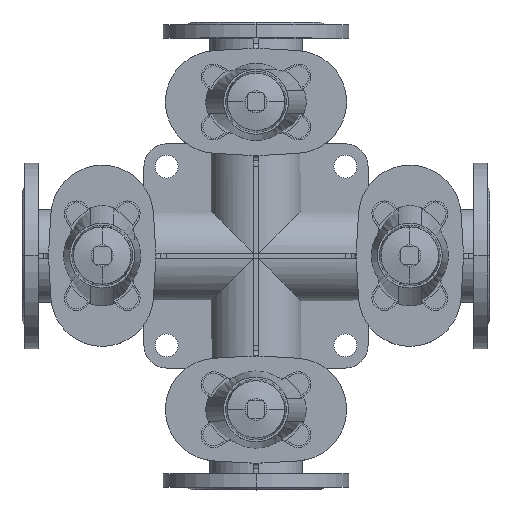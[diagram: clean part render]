
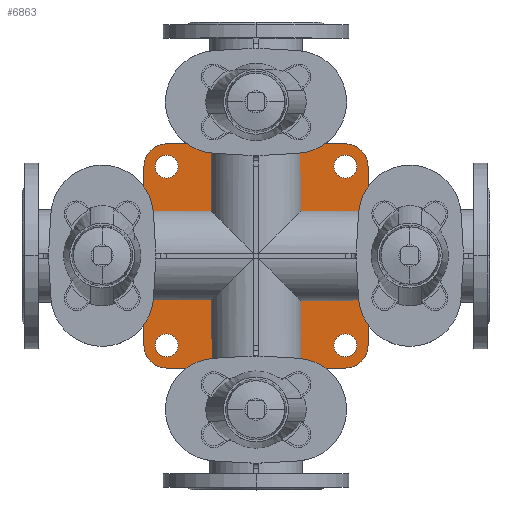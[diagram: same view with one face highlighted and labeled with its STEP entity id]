
A CAD part, top view. The second image highlights one B-rep face of the part: STEP entity #6863.
In plain terms, the highlighted planar face has unit normal (0, 0, 1).
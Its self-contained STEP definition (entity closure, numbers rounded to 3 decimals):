
#6863=ADVANCED_FACE('',(#12855,#12856,#12857,#12858,#12859),#12860,.F.);
#12855=FACE_BOUND('',#20348,.T.);
#12856=FACE_BOUND('',#20349,.T.);
#12857=FACE_BOUND('',#20350,.T.);
#12858=FACE_BOUND('',#20351,.T.);
#12859=FACE_OUTER_BOUND('',#20352,.T.);
#12860=PLANE('',#20353);
#20348=EDGE_LOOP('',(#34181,#34182));
#20349=EDGE_LOOP('',(#34183,#34184));
#20350=EDGE_LOOP('',(#34185,#34186));
#20351=EDGE_LOOP('',(#34187,#34188));
#20352=EDGE_LOOP('',(#34189,#34190,#34191,#34192,#34193,#34194,#34195,#34196));
#20353=AXIS2_PLACEMENT_3D('',#34197,#34198,#34199);
#34181=ORIENTED_EDGE('',*,*,#40093,.T.);
#34182=ORIENTED_EDGE('',*,*,#41068,.T.);
#34183=ORIENTED_EDGE('',*,*,#39984,.T.);
#34184=ORIENTED_EDGE('',*,*,#42291,.T.);
#34185=ORIENTED_EDGE('',*,*,#41514,.T.);
#34186=ORIENTED_EDGE('',*,*,#42292,.T.);
#34187=ORIENTED_EDGE('',*,*,#40841,.T.);
#34188=ORIENTED_EDGE('',*,*,#39247,.T.);
#34189=ORIENTED_EDGE('',*,*,#42293,.F.);
#34190=ORIENTED_EDGE('',*,*,#42294,.F.);
#34191=ORIENTED_EDGE('',*,*,#40184,.F.);
#34192=ORIENTED_EDGE('',*,*,#37147,.F.);
#34193=ORIENTED_EDGE('',*,*,#42295,.F.);
#34194=ORIENTED_EDGE('',*,*,#39201,.F.);
#34195=ORIENTED_EDGE('',*,*,#42013,.F.);
#34196=ORIENTED_EDGE('',*,*,#41854,.F.);
#34197=CARTESIAN_POINT('',(277.5,0.0,15.0));
#34198=DIRECTION('',(0.0,0.0,-1.0));
#34199=DIRECTION('',(-1.0,0.0,0.0));
#37147=EDGE_CURVE('',#43547,#43548,#43549,.T.);
#39201=EDGE_CURVE('',#46939,#46940,#46941,.T.);
#39247=EDGE_CURVE('',#47009,#47006,#47010,.T.);
#39984=EDGE_CURVE('',#48116,#48118,#48120,.T.);
#40093=EDGE_CURVE('',#48265,#48267,#48269,.T.);
#40184=EDGE_CURVE('',#43548,#48400,#48401,.T.);
#40841=EDGE_CURVE('',#47006,#47009,#49281,.T.);
#41068=EDGE_CURVE('',#48267,#48265,#49581,.T.);
#41514=EDGE_CURVE('',#50146,#50148,#50150,.T.);
#41854=EDGE_CURVE('',#50565,#50566,#50567,.T.);
#42013=EDGE_CURVE('',#50566,#46939,#50746,.T.);
#42291=EDGE_CURVE('',#48118,#48116,#51049,.T.);
#42292=EDGE_CURVE('',#50148,#50146,#51050,.T.);
#42293=EDGE_CURVE('',#51051,#50565,#51052,.T.);
#42294=EDGE_CURVE('',#48400,#51051,#51053,.T.);
#42295=EDGE_CURVE('',#46940,#43547,#51054,.T.);
#43547=VERTEX_POINT('',#52550);
#43548=VERTEX_POINT('',#52551);
#43549=CIRCLE('',#52552,27.0);
#46939=VERTEX_POINT('',#56921);
#46940=VERTEX_POINT('',#56922);
#46941=CIRCLE('',#56923,27.0);
#47006=VERTEX_POINT('',#57009);
#47009=VERTEX_POINT('',#57013);
#47010=CIRCLE('',#57014,13.5);
#48116=VERTEX_POINT('',#58485);
#48118=VERTEX_POINT('',#58488);
#48120=CIRCLE('',#58491,13.5);
#48265=VERTEX_POINT('',#58684);
#48267=VERTEX_POINT('',#58687);
#48269=CIRCLE('',#58690,13.5);
#48400=VERTEX_POINT('',#58866);
#48401=LINE('',#58867,#58868);
#49281=CIRCLE('',#60026,13.5);
#49581=CIRCLE('',#60402,13.5);
#50146=VERTEX_POINT('',#61148);
#50148=VERTEX_POINT('',#61151);
#50150=CIRCLE('',#61154,13.5);
#50565=VERTEX_POINT('',#61696);
#50566=VERTEX_POINT('',#61697);
#50567=CIRCLE('',#61698,27.0);
#50746=LINE('',#61929,#61930);
#51049=CIRCLE('',#62309,13.5);
#51050=CIRCLE('',#62310,13.5);
#51051=VERTEX_POINT('',#62311);
#51052=LINE('',#62312,#62313);
#51053=CIRCLE('',#62314,27.0);
#51054=LINE('',#62315,#62316);
#52550=CARTESIAN_POINT('',(383.5,133.0,15.0));
#52551=CARTESIAN_POINT('',(410.5,106.0,15.0));
#52552=AXIS2_PLACEMENT_3D('',#63466,#63467,#63468);
#56921=CARTESIAN_POINT('',(144.5,106.0,15.0));
#56922=CARTESIAN_POINT('',(171.5,133.0,15.0));
#56923=AXIS2_PLACEMENT_3D('',#66341,#66342,#66343);
#57009=CARTESIAN_POINT('',(397.0,106.0,15.0));
#57013=CARTESIAN_POINT('',(370.0,106.0,15.0));
#57014=AXIS2_PLACEMENT_3D('',#66399,#66400,#66401);
#58485=CARTESIAN_POINT('',(185.0,-106.0,15.0));
#58488=CARTESIAN_POINT('',(158.0,-106.0,15.0));
#58491=AXIS2_PLACEMENT_3D('',#67312,#67313,#67314);
#58684=CARTESIAN_POINT('',(397.0,-106.0,15.0));
#58687=CARTESIAN_POINT('',(370.0,-106.0,15.0));
#58690=AXIS2_PLACEMENT_3D('',#67440,#67441,#67442);
#58866=CARTESIAN_POINT('',(410.5,-106.0,15.0));
#58867=CARTESIAN_POINT('',(410.5,106.0,15.0));
#58868=VECTOR('',#67542,1.0);
#60026=AXIS2_PLACEMENT_3D('',#68298,#68299,#68300);
#60402=AXIS2_PLACEMENT_3D('',#68584,#68585,#68586);
#61148=CARTESIAN_POINT('',(185.0,106.0,15.0));
#61151=CARTESIAN_POINT('',(158.0,106.0,15.0));
#61154=AXIS2_PLACEMENT_3D('',#69085,#69086,#69087);
#61696=CARTESIAN_POINT('',(171.5,-133.0,15.0));
#61697=CARTESIAN_POINT('',(144.5,-106.0,15.0));
#61698=AXIS2_PLACEMENT_3D('',#69458,#69459,#69460);
#61929=CARTESIAN_POINT('',(144.5,-106.0,15.0));
#61930=VECTOR('',#69597,1.0);
#62309=AXIS2_PLACEMENT_3D('',#69803,#69804,#69805);
#62310=AXIS2_PLACEMENT_3D('',#69806,#69807,#69808);
#62311=CARTESIAN_POINT('',(383.5,-133.0,15.0));
#62312=CARTESIAN_POINT('',(383.5,-133.0,15.0));
#62313=VECTOR('',#69809,1.0);
#62314=AXIS2_PLACEMENT_3D('',#69810,#69811,#69812);
#62315=CARTESIAN_POINT('',(171.5,133.0,15.0));
#62316=VECTOR('',#69813,1.0);
#63466=CARTESIAN_POINT('',(383.5,106.0,15.0));
#63467=DIRECTION('',(0.0,0.0,-1.0));
#63468=DIRECTION('',(-1.0,0.0,0.0));
#66341=CARTESIAN_POINT('',(171.5,106.0,15.0));
#66342=DIRECTION('',(0.0,0.0,-1.0));
#66343=DIRECTION('',(-1.0,0.0,0.0));
#66399=CARTESIAN_POINT('',(383.5,106.0,15.0));
#66400=DIRECTION('',(0.0,0.0,-1.0));
#66401=DIRECTION('',(1.0,0.0,0.0));
#67312=CARTESIAN_POINT('',(171.5,-106.0,15.0));
#67313=DIRECTION('',(0.0,0.0,-1.0));
#67314=DIRECTION('',(1.0,0.0,0.0));
#67440=CARTESIAN_POINT('',(383.5,-106.0,15.0));
#67441=DIRECTION('',(0.0,0.0,-1.0));
#67442=DIRECTION('',(1.0,0.0,0.0));
#67542=DIRECTION('',(0.0,-1.0,0.0));
#68298=CARTESIAN_POINT('',(383.5,106.0,15.0));
#68299=DIRECTION('',(0.0,0.0,-1.0));
#68300=DIRECTION('',(1.0,0.0,0.0));
#68584=CARTESIAN_POINT('',(383.5,-106.0,15.0));
#68585=DIRECTION('',(0.0,0.0,-1.0));
#68586=DIRECTION('',(1.0,0.0,0.0));
#69085=CARTESIAN_POINT('',(171.5,106.0,15.0));
#69086=DIRECTION('',(0.0,0.0,-1.0));
#69087=DIRECTION('',(1.0,0.0,0.0));
#69458=CARTESIAN_POINT('',(171.5,-106.0,15.0));
#69459=DIRECTION('',(0.0,0.0,-1.0));
#69460=DIRECTION('',(-1.0,0.0,0.0));
#69597=DIRECTION('',(0.0,1.0,0.0));
#69803=CARTESIAN_POINT('',(171.5,-106.0,15.0));
#69804=DIRECTION('',(0.0,0.0,-1.0));
#69805=DIRECTION('',(1.0,0.0,0.0));
#69806=CARTESIAN_POINT('',(171.5,106.0,15.0));
#69807=DIRECTION('',(0.0,0.0,-1.0));
#69808=DIRECTION('',(1.0,0.0,0.0));
#69809=DIRECTION('',(-1.0,0.0,0.0));
#69810=CARTESIAN_POINT('',(383.5,-106.0,15.0));
#69811=DIRECTION('',(0.0,0.0,-1.0));
#69812=DIRECTION('',(-1.0,0.0,0.0));
#69813=DIRECTION('',(1.0,0.0,0.0));
